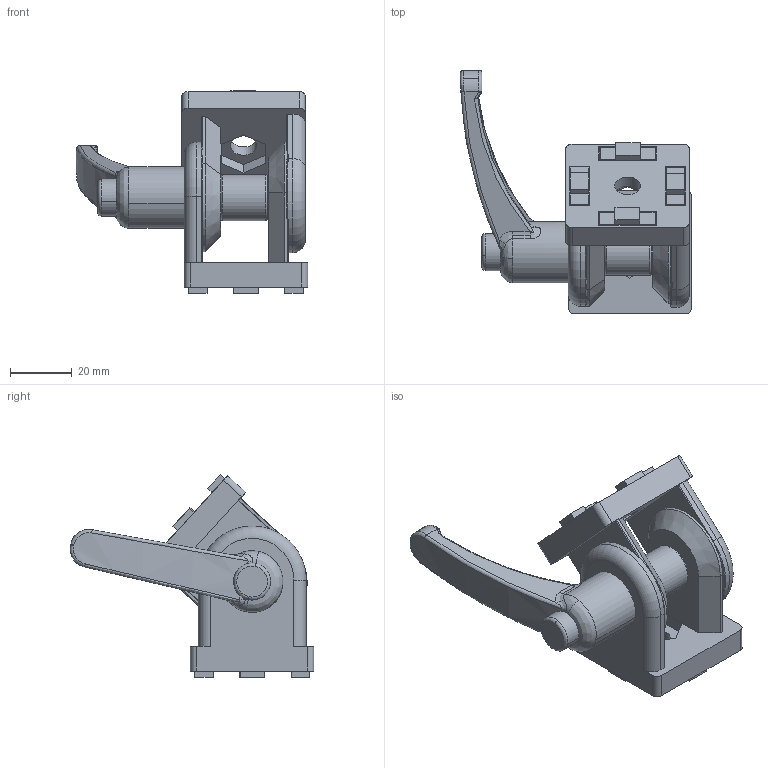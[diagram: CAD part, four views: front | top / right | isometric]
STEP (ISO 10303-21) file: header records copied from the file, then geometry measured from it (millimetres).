
FILE_DESCRIPTION((''),'2;1');
FILE_NAME('E:\catalogue and flyer\Profile catalogue 2015\Accessories JE info\Accessories-JE step file 31MAr16\JE-KJ4040-8_clamp.stp','2016-04-07T11:28:32',('h029'),(''),'Autodesk Inventor 11','Autodesk Inventor 11','');
FILE_SCHEMA(('AUTOMOTIVE_DESIGN { 1 0 10303 214 1 1 1 1 }'));
Length unit declared in the file: millimetre
Products named in the file (8): Knuckle Joint with Clamp(JE-KJ4040-8); Knuckle-1; Hex Slot Nut; Plastic Washer; Slot Nut; Centre Support; Lever Handle; guide dot
Assembly tree (16 placements, depth 2):
  Knuckle Joint with Clamp(JE-KJ4040-8)
    Knuckle-1  x2
    Hex Slot Nut
    Plastic Washer  x2
    Slot Nut
    Centre Support
    Lever Handle
    guide dot  x8
Bounding box: 74.94 x 78.97 x 65.64 mm (x, y, z)
Volume: 67209.9 mm3; surface area: 36875.4 mm2
Topology: 16 solids, 16 shells, 441 faces, 1075 edges, 686 vertices
Faces by surface type: plane 287, cylinder 106, bspline 34, torus 8, cone 5, sphere 1
Full cylindrical faces by diameter (mm): 6.2 x1, 6.75 x1, 13 x4, 15 x1, 16.8 x1, 19.919 x2, 21 x2, 21.2 x2
Entity records: 8232 total; most frequent: CARTESIAN_POINT 2723, DIRECTION 1099, ORIENTED_EDGE 1064, EDGE_CURVE 532, AXIS2_PLACEMENT_3D 397, VERTEX_POINT 347, VECTOR 305, LINE 305
